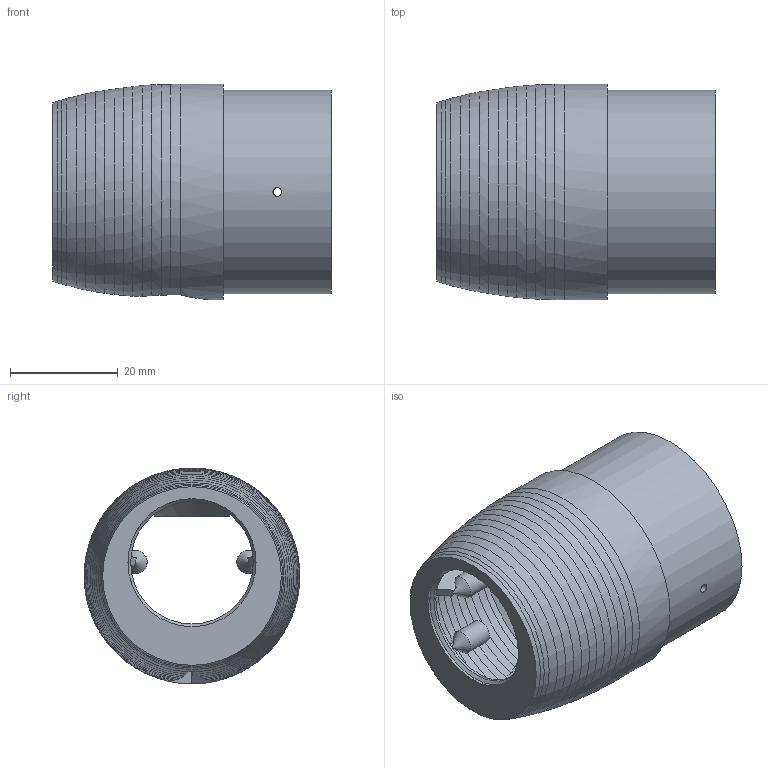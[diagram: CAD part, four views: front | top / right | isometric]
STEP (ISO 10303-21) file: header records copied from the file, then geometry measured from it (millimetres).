
FILE_DESCRIPTION(('SkyG Speed 90B - revision C6B-6 - 2026-10-08','N0P-nose-pi-camera'),'2;1');
FILE_NAME('N0P-nose-pi-camera_C6B-6','2026-10-08T12:30:59',('Author'),( 'Open CASCADE'),'Open CASCADE STEP processor 7.9','Open CASCADE 7.9' ,'Unknown');
FILE_SCHEMA(('AUTOMOTIVE_DESIGN { 1 0 10303 214 1 1 1 1 }'));
Length unit declared in the file: millimetre
Products named in the file (1): N0P-nose-pi-camera C6B-6
Bounding box: 51.6 x 40 x 40 mm (x, y, z)
Volume: 12681.5 mm3; surface area: 14656.3 mm2
Topology: 1 solids, 1 shells, 212 faces, 584 edges, 378 vertices
Faces by surface type: plane 104, cone 51, bspline 32, cylinder 25
Full cylindrical faces by diameter (mm): 1.6 x6, 22.717 x1, 23.724 x1, 33.8 x1, 37.7 x1, 40 x1
Entity records: 16351 total; most frequent: CARTESIAN_POINT 5842, DIRECTION 1671, ORIENTED_EDGE 1160, PCURVE 1160, DEFINITIONAL_REPRESENTATION 1160, LINE 811, VECTOR 811, EDGE_CURVE 580
